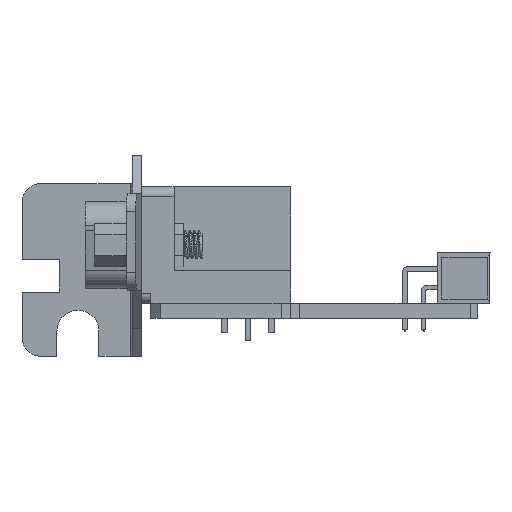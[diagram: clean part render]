
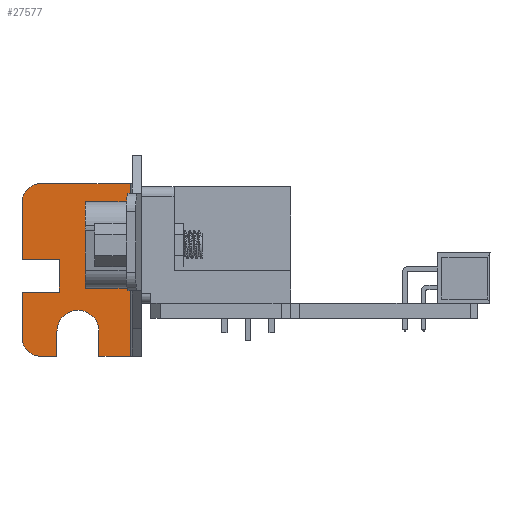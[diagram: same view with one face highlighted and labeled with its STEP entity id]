
A CAD part, front view. The second image highlights one B-rep face of the part: STEP entity #27577.
In plain terms, the highlighted planar face has unit normal (0, -1, 0) as drawn and (0, 0, -1) by its records, which use the part's own axes.
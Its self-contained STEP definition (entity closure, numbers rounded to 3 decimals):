
#23 = VECTOR ( 'NONE', #51549, 1000. ) ;
#141 = VECTOR ( 'NONE', #36097, 1000. ) ;
#150 = CARTESIAN_POINT ( 'NONE',  ( 11.8, 4.585, 59.516 ) ) ;
#189 = CARTESIAN_POINT ( 'NONE',  ( 3.55, -11.915, 59.516 ) ) ;
#191 = VECTOR ( 'NONE', #17279, 1000. ) ;
#342 = EDGE_CURVE ( 'NONE', #17627, #47933, #22855, .T. ) ;
#1359 = ORIENTED_EDGE ( 'NONE', *, *, #74007, .T. ) ;
#3023 = CARTESIAN_POINT ( 'NONE',  ( 7.8, -5.033, 59.516 ) ) ;
#4307 = CARTESIAN_POINT ( 'NONE',  ( 5.8, -1.533, 59.516 ) ) ;
#6623 = EDGE_CURVE ( 'NONE', #63094, #23415, #66298, .T. ) ;
#7296 = EDGE_CURVE ( 'NONE', #75225, #46115, #77633, .T. ) ;
#7383 = ORIENTED_EDGE ( 'NONE', *, *, #6623, .T. ) ;
#7457 = CIRCLE ( 'NONE', #62929, 2. ) ;
#8563 = LINE ( 'NONE', #29235, #42719 ) ;
#8998 = CARTESIAN_POINT ( 'NONE',  ( 3.55, -9.233, 59.516 ) ) ;
#9296 = CARTESIAN_POINT ( 'NONE',  ( 9.8, -11.915, 59.516 ) ) ;
#10432 = LINE ( 'NONE', #72951, #53449 ) ;
#10450 = CARTESIAN_POINT ( 'NONE',  ( 8.05, -11.915, 59.516 ) ) ;
#10752 = DIRECTION ( 'NONE',  ( 0., 0., 1. ) ) ;
#11750 = VERTEX_POINT ( 'NONE', #41085 ) ;
#11987 = VERTEX_POINT ( 'NONE', #8998 ) ;
#12089 = CARTESIAN_POINT ( 'NONE',  ( 9.8, 6.585, 59.516 ) ) ;
#12282 = VECTOR ( 'NONE', #68620, 1000. ) ;
#12565 = CARTESIAN_POINT ( 'NONE',  ( 5.8, 6.585, 59.516 ) ) ;
#12862 = VECTOR ( 'NONE', #71714, 1000. ) ;
#12996 = VERTEX_POINT ( 'NONE', #12089 ) ;
#13599 = CARTESIAN_POINT ( 'NONE',  ( 7.8, -1.533, 59.516 ) ) ;
#14288 = VECTOR ( 'NONE', #25904, 1000. ) ;
#14347 = EDGE_CURVE ( 'NONE', #71246, #11750, #47994, .T. ) ;
#15884 = DIRECTION ( 'NONE',  ( -1., 0., 0. ) ) ;
#16136 = DIRECTION ( 'NONE',  ( 0., -1., 0. ) ) ;
#17062 = CARTESIAN_POINT ( 'NONE',  ( 5.8, -11.915, 59.516 ) ) ;
#17279 = DIRECTION ( 'NONE',  ( 0., -1., 0. ) ) ;
#17284 = ORIENTED_EDGE ( 'NONE', *, *, #69508, .T. ) ;
#17627 = VERTEX_POINT ( 'NONE', #189 ) ;
#19399 = AXIS2_PLACEMENT_3D ( 'NONE', #67320, #47481, #66920 ) ;
#19605 = ORIENTED_EDGE ( 'NONE', *, *, #20054, .T. ) ;
#20054 = EDGE_CURVE ( 'NONE', #23415, #75225, #29014, .T. ) ;
#20098 = CIRCLE ( 'NONE', #33322, 2. ) ;
#20141 = VECTOR ( 'NONE', #44842, 1000. ) ;
#20504 = ORIENTED_EDGE ( 'NONE', *, *, #57268, .F. ) ;
#21171 = ORIENTED_EDGE ( 'NONE', *, *, #342, .T. ) ;
#21705 = LINE ( 'NONE', #4307, #46356 ) ;
#22136 = CARTESIAN_POINT ( 'NONE',  ( 11.8, -5.033, 59.516 ) ) ;
#22349 = EDGE_LOOP ( 'NONE', ( #21171, #20504, #60532, #46236, #75990, #1359, #7383, #19605, #46520, #38896, #23366, #46019, #62813, #17284 ) ) ;
#22855 = LINE ( 'NONE', #17062, #141 ) ;
#23366 = ORIENTED_EDGE ( 'NONE', *, *, #25021, .T. ) ;
#23415 = VERTEX_POINT ( 'NONE', #3023 ) ;
#24311 = LINE ( 'NONE', #36733, #191 ) ;
#25021 = EDGE_CURVE ( 'NONE', #35315, #76799, #10432, .T. ) ;
#25904 = DIRECTION ( 'NONE',  ( 0., -1., 0. ) ) ;
#27577 = ADVANCED_FACE ( 'NONE', ( #74357 ), #53691, .T. ) ;
#28230 = CARTESIAN_POINT ( 'NONE',  ( 7.8, -9.233, 59.516 ) ) ;
#28598 = DIRECTION ( 'NONE',  ( 0., 0., -1. ) ) ;
#29014 = LINE ( 'NONE', #49580, #12282 ) ;
#29235 = CARTESIAN_POINT ( 'NONE',  ( 3.55, -9.233, 59.516 ) ) ;
#31372 = EDGE_CURVE ( 'NONE', #12996, #71246, #7457, .T. ) ;
#33322 = AXIS2_PLACEMENT_3D ( 'NONE', #35234, #28598, #72478 ) ;
#34235 = DIRECTION ( 'NONE',  ( 0., -1., 0. ) ) ;
#35208 = CARTESIAN_POINT ( 'NONE',  ( 11.8, -9.915, 59.516 ) ) ;
#35234 = CARTESIAN_POINT ( 'NONE',  ( 9.8, -9.915, 59.516 ) ) ;
#35315 = VERTEX_POINT ( 'NONE', #9296 ) ;
#35552 = EDGE_CURVE ( 'NONE', #40086, #12996, #44018, .T. ) ;
#35595 = CARTESIAN_POINT ( 'NONE',  ( 0.2, -11.915, 59.516 ) ) ;
#35694 = DIRECTION ( 'NONE',  ( -1., 0., 0. ) ) ;
#36014 = DIRECTION ( 'NONE',  ( -1., 0., 0. ) ) ;
#36097 = DIRECTION ( 'NONE',  ( -1., 0., 0. ) ) ;
#36733 = CARTESIAN_POINT ( 'NONE',  ( 0.2, 6.585, 59.516 ) ) ;
#36774 = VECTOR ( 'NONE', #16136, 1000. ) ;
#38795 = CARTESIAN_POINT ( 'NONE',  ( 8.05, -9.233, 59.516 ) ) ;
#38896 = ORIENTED_EDGE ( 'NONE', *, *, #57955, .T. ) ;
#40086 = VERTEX_POINT ( 'NONE', #55738 ) ;
#40715 = CARTESIAN_POINT ( 'NONE',  ( 9.8, 4.585, 59.516 ) ) ;
#41085 = CARTESIAN_POINT ( 'NONE',  ( 11.8, -1.533, 59.516 ) ) ;
#42719 = VECTOR ( 'NONE', #34235, 1000. ) ;
#44018 = LINE ( 'NONE', #12565, #20141 ) ;
#44842 = DIRECTION ( 'NONE',  ( 1., 0., 0. ) ) ;
#46019 = ORIENTED_EDGE ( 'NONE', *, *, #73847, .T. ) ;
#46115 = VERTEX_POINT ( 'NONE', #35208 ) ;
#46236 = ORIENTED_EDGE ( 'NONE', *, *, #31372, .T. ) ;
#46356 = VECTOR ( 'NONE', #73044, 1000. ) ;
#46520 = ORIENTED_EDGE ( 'NONE', *, *, #7296, .T. ) ;
#47481 = DIRECTION ( 'NONE',  ( 0., 0., -1. ) ) ;
#47933 = VERTEX_POINT ( 'NONE', #35595 ) ;
#47994 = LINE ( 'NONE', #79469, #36774 ) ;
#49143 = EDGE_CURVE ( 'NONE', #61038, #11987, #73618, .T. ) ;
#49580 = CARTESIAN_POINT ( 'NONE',  ( 5.8, -5.033, 59.516 ) ) ;
#51549 = DIRECTION ( 'NONE',  ( 0., 1., 0. ) ) ;
#51970 = CARTESIAN_POINT ( 'NONE',  ( 11.8, -9.233, 59.516 ) ) ;
#53449 = VECTOR ( 'NONE', #35694, 1000. ) ;
#53691 = PLANE ( 'NONE',  #19399 ) ;
#55738 = CARTESIAN_POINT ( 'NONE',  ( 0.2, 6.585, 59.516 ) ) ;
#57268 = EDGE_CURVE ( 'NONE', #40086, #47933, #24311, .T. ) ;
#57955 = EDGE_CURVE ( 'NONE', #46115, #35315, #20098, .T. ) ;
#59376 = LINE ( 'NONE', #78020, #23 ) ;
#60532 = ORIENTED_EDGE ( 'NONE', *, *, #35552, .T. ) ;
#61038 = VERTEX_POINT ( 'NONE', #38795 ) ;
#62813 = ORIENTED_EDGE ( 'NONE', *, *, #49143, .T. ) ;
#62929 = AXIS2_PLACEMENT_3D ( 'NONE', #40715, #65955, #15884 ) ;
#63094 = VERTEX_POINT ( 'NONE', #13599 ) ;
#65955 = DIRECTION ( 'NONE',  ( 0., 0., -1. ) ) ;
#66298 = LINE ( 'NONE', #28230, #12862 ) ;
#66920 = DIRECTION ( 'NONE',  ( -1., 0., 0. ) ) ;
#67320 = CARTESIAN_POINT ( 'NONE',  ( 5.8, -9.233, 59.516 ) ) ;
#67453 = CARTESIAN_POINT ( 'NONE',  ( 5.8, -9.233, 59.516 ) ) ;
#68620 = DIRECTION ( 'NONE',  ( 1., 0., 0. ) ) ;
#69508 = EDGE_CURVE ( 'NONE', #11987, #17627, #8563, .T. ) ;
#71246 = VERTEX_POINT ( 'NONE', #150 ) ;
#71714 = DIRECTION ( 'NONE',  ( 0., -1., 0. ) ) ;
#72478 = DIRECTION ( 'NONE',  ( -1., 0., 0. ) ) ;
#72951 = CARTESIAN_POINT ( 'NONE',  ( 5.8, -11.915, 59.516 ) ) ;
#73044 = DIRECTION ( 'NONE',  ( -1., 0., 0. ) ) ;
#73618 = CIRCLE ( 'NONE', #74914, 2.25 ) ;
#73847 = EDGE_CURVE ( 'NONE', #76799, #61038, #59376, .T. ) ;
#74007 = EDGE_CURVE ( 'NONE', #11750, #63094, #21705, .T. ) ;
#74357 = FACE_OUTER_BOUND ( 'NONE', #22349, .T. ) ;
#74914 = AXIS2_PLACEMENT_3D ( 'NONE', #67453, #10752, #36014 ) ;
#75225 = VERTEX_POINT ( 'NONE', #22136 ) ;
#75990 = ORIENTED_EDGE ( 'NONE', *, *, #14347, .T. ) ;
#76799 = VERTEX_POINT ( 'NONE', #10450 ) ;
#77633 = LINE ( 'NONE', #51970, #14288 ) ;
#78020 = CARTESIAN_POINT ( 'NONE',  ( 8.05, -9.233, 59.516 ) ) ;
#79469 = CARTESIAN_POINT ( 'NONE',  ( 11.8, -9.233, 59.516 ) ) ;
